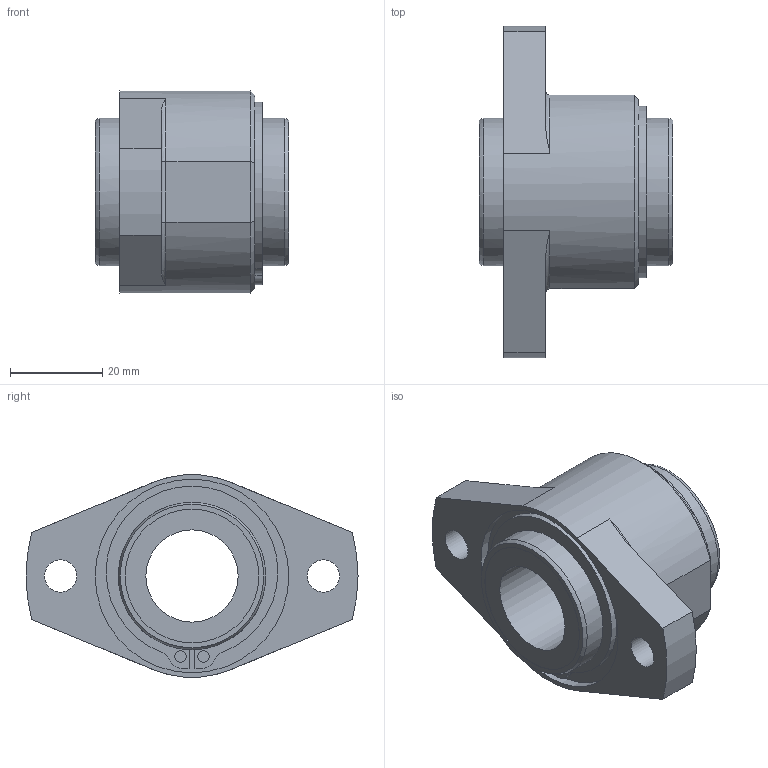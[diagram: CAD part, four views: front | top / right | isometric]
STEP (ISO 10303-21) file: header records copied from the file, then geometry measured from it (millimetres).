
FILE_DESCRIPTION((''),'2;1');
FILE_NAME('D:\製品 (図面)\カタログ用3D\シャフトブロック\LFH\LFH20.stp','2010-01-28T15:55:26',('Tsuchiya'),(''),'Autodesk Inventor 10','Autodesk Inventor 10','');
FILE_SCHEMA(('AUTOMOTIVE_DESIGN { 1 0 10303 214 1 1 1 1 }'));
Length unit declared in the file: millimetre
Products named in the file (1): LFH20
Bounding box: 42 x 72 x 43.86 mm (x, y, z)
Volume: 47303.4 mm3; surface area: 13086.6 mm2
Topology: 1 solids, 1 shells, 75 faces, 176 edges, 112 vertices
Faces by surface type: plane 26, cylinder 23, bspline 22, torus 2, cone 2
Full cylindrical faces by diameter (mm): 2.5 x2, 20 x1, 29 x2, 32 x2, 42 x1
Entity records: 2368 total; most frequent: CARTESIAN_POINT 732, DIRECTION 334, ORIENTED_EDGE 312, EDGE_CURVE 156, AXIS2_PLACEMENT_3D 136, VERTEX_POINT 108, EDGE_LOOP 106, CIRCLE 82
